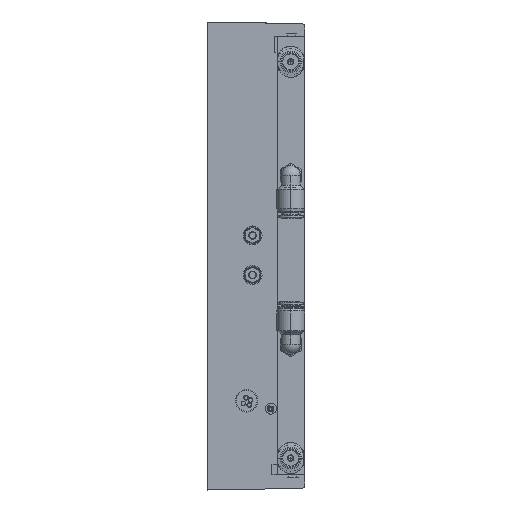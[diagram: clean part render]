
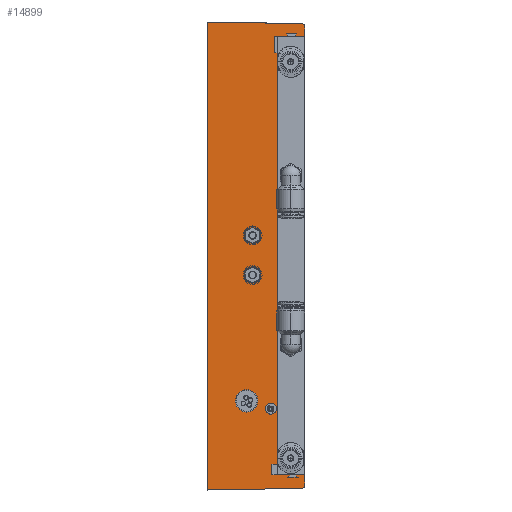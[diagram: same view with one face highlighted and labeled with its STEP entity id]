
A CAD part, left-side view. The second image highlights one B-rep face of the part: STEP entity #14899.
In plain terms, the highlighted planar face has unit normal (-1, 0, 0).
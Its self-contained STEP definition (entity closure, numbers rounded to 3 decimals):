
#651 = FACE_BOUND ( 'NONE', #34403, .T. ) ;
#736 = DIRECTION ( 'NONE',  ( 0., 0., 1. ) ) ;
#1730 = CARTESIAN_POINT ( 'NONE',  ( -61.169, 285.983, 357.341 ) ) ;
#1975 = VERTEX_POINT ( 'NONE', #35274 ) ;
#1997 = CIRCLE ( 'NONE', #25806, 3. ) ;
#2363 = DIRECTION ( 'NONE',  ( 0., 0., -1. ) ) ;
#2390 = CIRCLE ( 'NONE', #9180, 2.95 ) ;
#2665 = EDGE_CURVE ( 'NONE', #21066, #10050, #1997, .T. ) ;
#2877 = ORIENTED_EDGE ( 'NONE', *, *, #2665, .T. ) ;
#3565 = DIRECTION ( 'NONE',  ( 0., 0., -1. ) ) ;
#4064 = EDGE_CURVE ( 'NONE', #33847, #39099, #25773, .T. ) ;
#4326 = DIRECTION ( 'NONE',  ( -1., 0., 0. ) ) ;
#4375 = AXIS2_PLACEMENT_3D ( 'NONE', #31658, #15449, #18852 ) ;
#4527 = CARTESIAN_POINT ( 'NONE',  ( -61.169, 285.983, 342.341 ) ) ;
#4807 = CARTESIAN_POINT ( 'NONE',  ( -61.169, 267.755, 437.523 ) ) ;
#4961 = ORIENTED_EDGE ( 'NONE', *, *, #7392, .F. ) ;
#5676 = CARTESIAN_POINT ( 'NONE',  ( -61.169, 273.23, 437.591 ) ) ;
#6261 = CARTESIAN_POINT ( 'NONE',  ( -61.169, 303.183, 438.114 ) ) ;
#6353 = CARTESIAN_POINT ( 'NONE',  ( -61.169, 276.633, 266.741 ) ) ;
#7057 = PLANE ( 'NONE',  #35594 ) ;
#7370 = VECTOR ( 'NONE', #42160, 1000. ) ;
#7392 = EDGE_CURVE ( 'NONE', #23006, #36510, #23552, .T. ) ;
#8840 = CARTESIAN_POINT ( 'NONE',  ( -61.169, 266.183, 313.166 ) ) ;
#9126 = CIRCLE ( 'NONE', #4375, 2.95 ) ;
#9180 = AXIS2_PLACEMENT_3D ( 'NONE', #4527, #4326, #17076 ) ;
#9303 = VECTOR ( 'NONE', #3565, 1000. ) ;
#9433 = VERTEX_POINT ( 'NONE', #23593 ) ;
#10050 = VERTEX_POINT ( 'NONE', #4807 ) ;
#11085 = ORIENTED_EDGE ( 'NONE', *, *, #28719, .T. ) ;
#11185 = AXIS2_PLACEMENT_3D ( 'NONE', #1730, #31130, #40728 ) ;
#11196 = LINE ( 'NONE', #5676, #18951 ) ;
#11244 = DIRECTION ( 'NONE',  ( 0., 1., 0. ) ) ;
#11628 = DIRECTION ( 'NONE',  ( 0., 0., 1. ) ) ;
#11703 = LINE ( 'NONE', #31966, #37598 ) ;
#11865 = EDGE_CURVE ( 'NONE', #31397, #42082, #26228, .T. ) ;
#12051 = VECTOR ( 'NONE', #22397, 1000. ) ;
#12109 = EDGE_CURVE ( 'NONE', #39099, #12159, #11703, .T. ) ;
#12159 = VERTEX_POINT ( 'NONE', #24922 ) ;
#12227 = CARTESIAN_POINT ( 'NONE',  ( -61.169, 273.23, 437.591 ) ) ;
#12354 = CARTESIAN_POINT ( 'NONE',  ( -61.169, 276.633, 266.741 ) ) ;
#12379 = LINE ( 'NONE', #31586, #12051 ) ;
#12748 = VERTEX_POINT ( 'NONE', #14341 ) ;
#12805 = CARTESIAN_POINT ( 'NONE',  ( -61.169, 266.183, 313.166 ) ) ;
#13229 = CARTESIAN_POINT ( 'NONE',  ( -61.169, 267.793, 434.523 ) ) ;
#13618 = CARTESIAN_POINT ( 'NONE',  ( -61.169, 285.42, 313.166 ) ) ;
#14243 = ORIENTED_EDGE ( 'NONE', *, *, #34990, .F. ) ;
#14341 = CARTESIAN_POINT ( 'NONE',  ( -61.169, 267.741, 261.584 ) ) ;
#14648 = CARTESIAN_POINT ( 'NONE',  ( -61.169, 276.633, 432.641 ) ) ;
#14811 = LINE ( 'NONE', #8840, #27395 ) ;
#14831 = ORIENTED_EDGE ( 'NONE', *, *, #19033, .F. ) ;
#14899 = ADVANCED_FACE ( 'NONE', ( #20434, #651, #36244 ), #7057, .T. ) ;
#15019 = CARTESIAN_POINT ( 'NONE',  ( -61.169, 285.983, 345.291 ) ) ;
#15449 = DIRECTION ( 'NONE',  ( -1., 0., 0. ) ) ;
#16560 = LINE ( 'NONE', #6353, #7370 ) ;
#16740 = CARTESIAN_POINT ( 'NONE',  ( -61.169, 276.633, 292.741 ) ) ;
#16975 = AXIS2_PLACEMENT_3D ( 'NONE', #40858, #31901, #11628 ) ;
#17059 = DIRECTION ( 'NONE',  ( -1., 0., 0. ) ) ;
#17076 = DIRECTION ( 'NONE',  ( 0., 0., 1. ) ) ;
#17541 = LINE ( 'NONE', #30557, #41047 ) ;
#17887 = EDGE_CURVE ( 'NONE', #10050, #33847, #11196, .T. ) ;
#18606 = ORIENTED_EDGE ( 'NONE', *, *, #11865, .T. ) ;
#18626 = VERTEX_POINT ( 'NONE', #24672 ) ;
#18734 = VERTEX_POINT ( 'NONE', #35975 ) ;
#18852 = DIRECTION ( 'NONE',  ( 0., 0., 1. ) ) ;
#18951 = VECTOR ( 'NONE', #31228, 1000. ) ;
#19033 = EDGE_CURVE ( 'NONE', #22545, #1975, #9126, .T. ) ;
#19345 = ORIENTED_EDGE ( 'NONE', *, *, #40184, .F. ) ;
#20142 = VERTEX_POINT ( 'NONE', #15019 ) ;
#20380 = ORIENTED_EDGE ( 'NONE', *, *, #36191, .T. ) ;
#20434 = FACE_BOUND ( 'NONE', #34106, .T. ) ;
#21066 = VERTEX_POINT ( 'NONE', #31236 ) ;
#21174 = ORIENTED_EDGE ( 'NONE', *, *, #36481, .T. ) ;
#21238 = CARTESIAN_POINT ( 'NONE',  ( -61.169, 266.183, 266.741 ) ) ;
#21849 = ORIENTED_EDGE ( 'NONE', *, *, #28232, .F. ) ;
#21961 = VECTOR ( 'NONE', #11244, 1000. ) ;
#22397 = DIRECTION ( 'NONE',  ( 0., 1., -0.017 ) ) ;
#22545 = VERTEX_POINT ( 'NONE', #24148 ) ;
#22571 = DIRECTION ( 'NONE',  ( 0., 1., 0.017 ) ) ;
#23006 = VERTEX_POINT ( 'NONE', #37365 ) ;
#23552 = LINE ( 'NONE', #16740, #9303 ) ;
#23593 = CARTESIAN_POINT ( 'NONE',  ( -61.169, 266.183, 432.641 ) ) ;
#23724 = DIRECTION ( 'NONE',  ( -1., 0., 0. ) ) ;
#24148 = CARTESIAN_POINT ( 'NONE',  ( -61.169, 285.983, 360.291 ) ) ;
#24474 = CIRCLE ( 'NONE', #16975, 2.95 ) ;
#24672 = CARTESIAN_POINT ( 'NONE',  ( -61.169, 273.23, 261.49 ) ) ;
#24774 = CIRCLE ( 'NONE', #11185, 2.95 ) ;
#24895 = DIRECTION ( 'NONE',  ( -1., 0., 0. ) ) ;
#24922 = CARTESIAN_POINT ( 'NONE',  ( -61.169, 303.183, 260.967 ) ) ;
#25037 = DIRECTION ( 'NONE',  ( 0., 0., 1. ) ) ;
#25773 = LINE ( 'NONE', #28347, #34220 ) ;
#25806 = AXIS2_PLACEMENT_3D ( 'NONE', #13229, #17059, #39259 ) ;
#26029 = EDGE_CURVE ( 'NONE', #1975, #22545, #24774, .T. ) ;
#26228 = LINE ( 'NONE', #12805, #34103 ) ;
#26531 = EDGE_LOOP ( 'NONE', ( #11085, #18606, #21849, #4961, #14243, #20380, #2877, #40586, #33087, #27788, #19345, #21174 ) ) ;
#26920 = CARTESIAN_POINT ( 'NONE',  ( -61.169, 267.793, 264.584 ) ) ;
#27395 = VECTOR ( 'NONE', #25037, 1000. ) ;
#27467 = DIRECTION ( 'NONE',  ( 0., 0., 1. ) ) ;
#27657 = LINE ( 'NONE', #14648, #21961 ) ;
#27788 = ORIENTED_EDGE ( 'NONE', *, *, #12109, .T. ) ;
#28232 = EDGE_CURVE ( 'NONE', #36510, #42082, #16560, .T. ) ;
#28347 = CARTESIAN_POINT ( 'NONE',  ( -61.169, 283.245, 437.766 ) ) ;
#28719 = EDGE_CURVE ( 'NONE', #12748, #31397, #41421, .T. ) ;
#29868 = DIRECTION ( 'NONE',  ( 0., 0., 1. ) ) ;
#30557 = CARTESIAN_POINT ( 'NONE',  ( -61.169, 273.23, 261.49 ) ) ;
#31130 = DIRECTION ( 'NONE',  ( -1., 0., 0. ) ) ;
#31228 = DIRECTION ( 'NONE',  ( 0., 1., 0.012 ) ) ;
#31236 = CARTESIAN_POINT ( 'NONE',  ( -61.169, 266.183, 437.055 ) ) ;
#31397 = VERTEX_POINT ( 'NONE', #32311 ) ;
#31586 = CARTESIAN_POINT ( 'NONE',  ( -61.169, 276.633, 261.431 ) ) ;
#31658 = CARTESIAN_POINT ( 'NONE',  ( -61.169, 285.983, 357.341 ) ) ;
#31901 = DIRECTION ( 'NONE',  ( -1., 0., 0. ) ) ;
#31906 = ORIENTED_EDGE ( 'NONE', *, *, #26029, .F. ) ;
#31966 = CARTESIAN_POINT ( 'NONE',  ( -61.169, 303.183, 287.841 ) ) ;
#32156 = EDGE_CURVE ( 'NONE', #18734, #20142, #24474, .T. ) ;
#32311 = CARTESIAN_POINT ( 'NONE',  ( -61.169, 266.183, 262.052 ) ) ;
#32562 = AXIS2_PLACEMENT_3D ( 'NONE', #26920, #23724, #736 ) ;
#33087 = ORIENTED_EDGE ( 'NONE', *, *, #4064, .T. ) ;
#33847 = VERTEX_POINT ( 'NONE', #12227 ) ;
#34103 = VECTOR ( 'NONE', #29868, 1000. ) ;
#34106 = EDGE_LOOP ( 'NONE', ( #35853, #40340 ) ) ;
#34220 = VECTOR ( 'NONE', #22571, 1000. ) ;
#34403 = EDGE_LOOP ( 'NONE', ( #14831, #31906 ) ) ;
#34990 = EDGE_CURVE ( 'NONE', #9433, #23006, #27657, .T. ) ;
#35274 = CARTESIAN_POINT ( 'NONE',  ( -61.169, 285.983, 354.391 ) ) ;
#35594 = AXIS2_PLACEMENT_3D ( 'NONE', #13618, #24895, #27467 ) ;
#35853 = ORIENTED_EDGE ( 'NONE', *, *, #38010, .F. ) ;
#35975 = CARTESIAN_POINT ( 'NONE',  ( -61.169, 285.983, 339.391 ) ) ;
#36191 = EDGE_CURVE ( 'NONE', #9433, #21066, #14811, .T. ) ;
#36244 = FACE_OUTER_BOUND ( 'NONE', #26531, .T. ) ;
#36481 = EDGE_CURVE ( 'NONE', #18626, #12748, #17541, .T. ) ;
#36510 = VERTEX_POINT ( 'NONE', #12354 ) ;
#37365 = CARTESIAN_POINT ( 'NONE',  ( -61.169, 276.633, 432.641 ) ) ;
#37598 = VECTOR ( 'NONE', #2363, 1000. ) ;
#38010 = EDGE_CURVE ( 'NONE', #20142, #18734, #2390, .T. ) ;
#39099 = VERTEX_POINT ( 'NONE', #6261 ) ;
#39259 = DIRECTION ( 'NONE',  ( 0., 0., 1. ) ) ;
#40184 = EDGE_CURVE ( 'NONE', #18626, #12159, #12379, .T. ) ;
#40340 = ORIENTED_EDGE ( 'NONE', *, *, #32156, .F. ) ;
#40369 = DIRECTION ( 'NONE',  ( 0., -1., 0.017 ) ) ;
#40586 = ORIENTED_EDGE ( 'NONE', *, *, #17887, .T. ) ;
#40728 = DIRECTION ( 'NONE',  ( 0., 0., 1. ) ) ;
#40858 = CARTESIAN_POINT ( 'NONE',  ( -61.169, 285.983, 342.341 ) ) ;
#41047 = VECTOR ( 'NONE', #40369, 1000. ) ;
#41421 = CIRCLE ( 'NONE', #32562, 3. ) ;
#42082 = VERTEX_POINT ( 'NONE', #21238 ) ;
#42160 = DIRECTION ( 'NONE',  ( 0., -1., 0. ) ) ;
